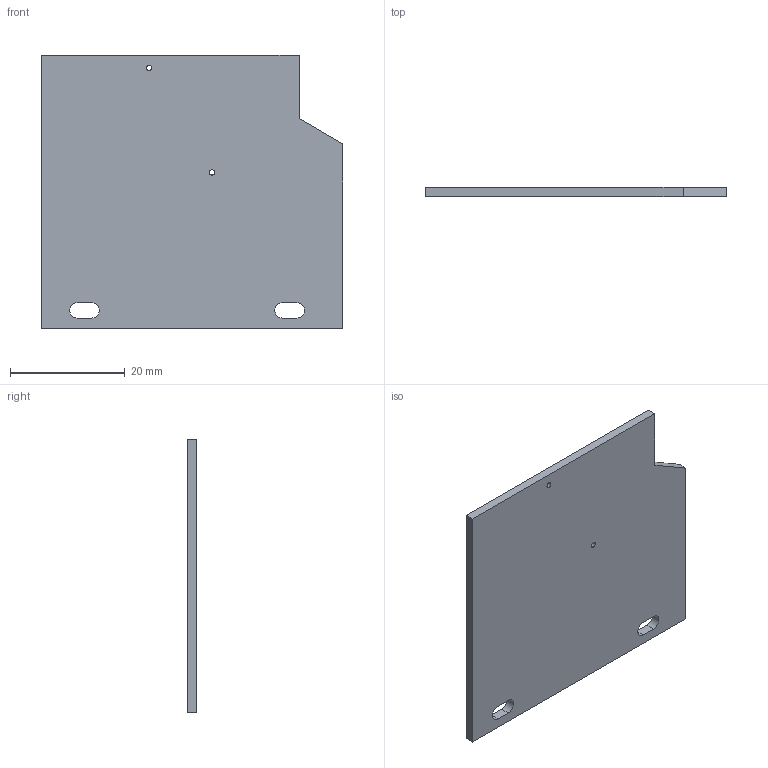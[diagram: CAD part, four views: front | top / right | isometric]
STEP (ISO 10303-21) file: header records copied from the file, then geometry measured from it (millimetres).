
FILE_DESCRIPTION (( 'STEP AP214' ), '1' );
FILE_NAME ('2514165.STEP', '2018-05-15T13:28:29', ( '' ), ( '' ), 'SwSTEP 2.0', 'SolidWorks 2016', '' );
FILE_SCHEMA (( 'AUTOMOTIVE_DESIGN' ));
Length unit declared in the file: inch
Products named in the file (1): 2514165
Bounding box: 52.58 x 1.6 x 47.62 mm (x, y, z)
Volume: 3803.9 mm3; surface area: 5122.4 mm2
Topology: 1 solids, 1 shells, 20 faces, 54 edges, 36 vertices
Faces by surface type: plane 12, cylinder 8
Entity records: 690 total; most frequent: DIRECTION 112, CARTESIAN_POINT 111, ORIENTED_EDGE 108, EDGE_CURVE 54, LINE 38, VECTOR 38, AXIS2_PLACEMENT_3D 37, VERTEX_POINT 36
